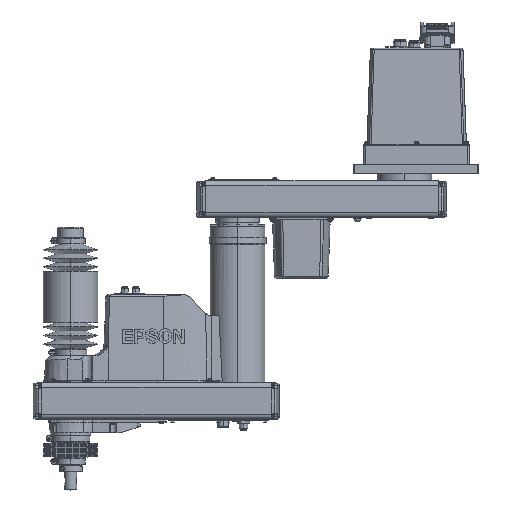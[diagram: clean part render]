
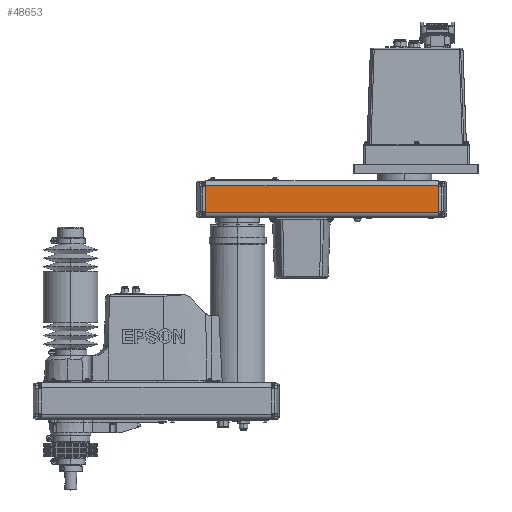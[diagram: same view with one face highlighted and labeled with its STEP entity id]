
A CAD part, top view. The second image highlights one B-rep face of the part: STEP entity #48653.
In plain terms, the highlighted planar face has unit normal (0.019, 0, 1) as drawn and (0, 0, -1) by its records, which use the part's own axes.
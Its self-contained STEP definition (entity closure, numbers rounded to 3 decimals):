
#4295 = ORIENTED_EDGE ( 'NONE', *, *, #89085, .T. ) ;
#5373 = CARTESIAN_POINT ( 'NONE',  ( 53.5, 8., -55.5 ) ) ;
#9695 = DIRECTION ( 'NONE',  ( 0., 0., 1. ) ) ;
#9827 = EDGE_CURVE ( 'NONE', #149111, #141624, #84582, .T. ) ;
#15001 = VECTOR ( 'NONE', #20526, 1000. ) ;
#19968 = LINE ( 'NONE', #105235, #142233 ) ;
#20526 = DIRECTION ( 'NONE',  ( -1., 0., 0. ) ) ;
#21605 = CARTESIAN_POINT ( 'NONE',  ( -330., 52., -55.5 ) ) ;
#24067 = DIRECTION ( 'NONE',  ( 0., -1., 0. ) ) ;
#24500 = CARTESIAN_POINT ( 'NONE',  ( -330., 8., -55.5 ) ) ;
#42619 = CARTESIAN_POINT ( 'NONE',  ( -330., 8., -55.5 ) ) ;
#48653 = ADVANCED_FACE ( 'NONE', ( #132265 ), #59876, .F. ) ;
#48873 = ORIENTED_EDGE ( 'NONE', *, *, #88463, .F. ) ;
#59876 = PLANE ( 'NONE',  #95021 ) ;
#83869 = VECTOR ( 'NONE', #24067, 1000. ) ;
#84582 = LINE ( 'NONE', #133153, #83869 ) ;
#88463 = EDGE_CURVE ( 'NONE', #126266, #149111, #129582, .T. ) ;
#89085 = EDGE_CURVE ( 'NONE', #126266, #134535, #19968, .T. ) ;
#89841 = CARTESIAN_POINT ( 'NONE',  ( 53.5, 52., -55.5 ) ) ;
#93248 = DIRECTION ( 'NONE',  ( 0., -1., 0. ) ) ;
#95021 = AXIS2_PLACEMENT_3D ( 'NONE', #120284, #9695, #145933 ) ;
#105235 = CARTESIAN_POINT ( 'NONE',  ( 53.5, 52., -55.5 ) ) ;
#106036 = VECTOR ( 'NONE', #120814, 1000. ) ;
#107943 = EDGE_LOOP ( 'NONE', ( #156511, #48873, #4295, #144677 ) ) ;
#117685 = LINE ( 'NONE', #24500, #106036 ) ;
#120284 = CARTESIAN_POINT ( 'NONE',  ( 67.8, 8., -55.5 ) ) ;
#120814 = DIRECTION ( 'NONE',  ( 1., 0., 0. ) ) ;
#126266 = VERTEX_POINT ( 'NONE', #89841 ) ;
#128815 = CARTESIAN_POINT ( 'NONE',  ( 53.5, 52., -55.5 ) ) ;
#129582 = LINE ( 'NONE', #128815, #15001 ) ;
#132265 = FACE_OUTER_BOUND ( 'NONE', #107943, .T. ) ;
#133153 = CARTESIAN_POINT ( 'NONE',  ( -330., 52., -55.5 ) ) ;
#134535 = VERTEX_POINT ( 'NONE', #5373 ) ;
#141624 = VERTEX_POINT ( 'NONE', #42619 ) ;
#142233 = VECTOR ( 'NONE', #93248, 1000. ) ;
#144677 = ORIENTED_EDGE ( 'NONE', *, *, #157029, .F. ) ;
#145933 = DIRECTION ( 'NONE',  ( 1., 0., 0. ) ) ;
#149111 = VERTEX_POINT ( 'NONE', #21605 ) ;
#156511 = ORIENTED_EDGE ( 'NONE', *, *, #9827, .F. ) ;
#157029 = EDGE_CURVE ( 'NONE', #141624, #134535, #117685, .T. ) ;
